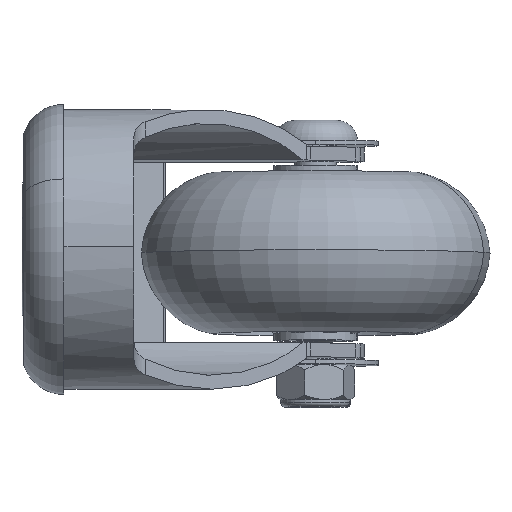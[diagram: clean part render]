
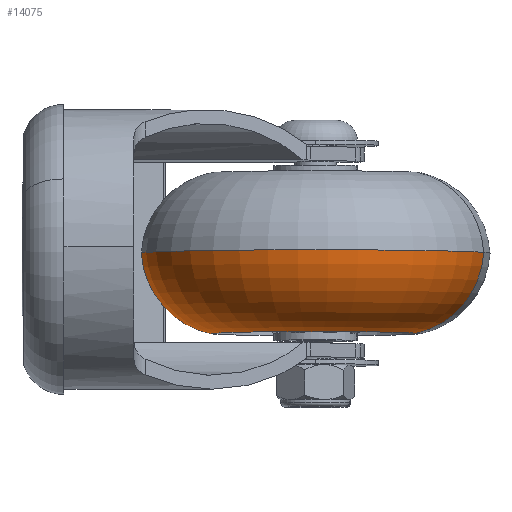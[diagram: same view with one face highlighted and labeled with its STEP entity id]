
A CAD part, left-side view. The second image highlights one B-rep face of the part: STEP entity #14075.
In plain terms, the highlighted toroidal (fillet/blend) face has major radius 12.523 mm and minor radius 12.5 mm.
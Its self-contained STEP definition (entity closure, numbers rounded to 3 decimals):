
#219 = ORIENTED_EDGE ( 'NONE', *, *, #24552, .T. ) ;
#465 = DIRECTION ( 'NONE',  ( -1., 0., 0. ) ) ;
#528 = CIRCLE ( 'NONE', #6627, 15. ) ;
#1528 = DIRECTION ( 'NONE',  ( 0., -1., 0. ) ) ;
#2879 = DIRECTION ( 'NONE',  ( 0., 0., -1. ) ) ;
#3900 = AXIS2_PLACEMENT_3D ( 'NONE', #29834, #465, #24161 ) ;
#3958 = EDGE_CURVE ( 'NONE', #14428, #33915, #528, .T. ) ;
#6627 = AXIS2_PLACEMENT_3D ( 'NONE', #14784, #20276, #8551 ) ;
#6629 = VERTEX_POINT ( 'NONE', #15293 ) ;
#7053 = AXIS2_PLACEMENT_3D ( 'NONE', #21641, #33173, #18813 ) ;
#7097 = ORIENTED_EDGE ( 'NONE', *, *, #3958, .F. ) ;
#7304 = EDGE_CURVE ( 'NONE', #33915, #23083, #12468, .T. ) ;
#7373 = ORIENTED_EDGE ( 'NONE', *, *, #7304, .F. ) ;
#8537 = CARTESIAN_POINT ( 'NONE',  ( 0., -11.5, -15. ) ) ;
#8551 = DIRECTION ( 'NONE',  ( 0., 0., -1. ) ) ;
#10627 = CARTESIAN_POINT ( 'NONE',  ( 0., 0., 0. ) ) ;
#10817 = DIRECTION ( 'NONE',  ( 0., 0., -1. ) ) ;
#12468 = CIRCLE ( 'NONE', #7053, 12.5 ) ;
#14075 = ADVANCED_FACE ( 'NONE', ( #28454 ), #23616, .T. ) ;
#14428 = VERTEX_POINT ( 'NONE', #35521 ) ;
#14784 = CARTESIAN_POINT ( 'NONE',  ( 0., -11.5, 0. ) ) ;
#15293 = CARTESIAN_POINT ( 'NONE',  ( 0., 0., 25. ) ) ;
#18813 = DIRECTION ( 'NONE',  ( 0., 0., -1. ) ) ;
#19153 = AXIS2_PLACEMENT_3D ( 'NONE', #10627, #1528, #10817 ) ;
#20276 = DIRECTION ( 'NONE',  ( 0., -1., 0. ) ) ;
#21641 = CARTESIAN_POINT ( 'NONE',  ( 0., 0.752, -12.523 ) ) ;
#22402 = AXIS2_PLACEMENT_3D ( 'NONE', #28642, #36977, #2879 ) ;
#23083 = VERTEX_POINT ( 'NONE', #37032 ) ;
#23616 = TOROIDAL_SURFACE ( 'NONE', #22402, 12.523, 12.5 ) ;
#24067 = EDGE_LOOP ( 'NONE', ( #7097, #219, #29683, #7373 ) ) ;
#24161 = DIRECTION ( 'NONE',  ( 0., 0., 1. ) ) ;
#24552 = EDGE_CURVE ( 'NONE', #14428, #6629, #36544, .T. ) ;
#28454 = FACE_OUTER_BOUND ( 'NONE', #24067, .T. ) ;
#28642 = CARTESIAN_POINT ( 'NONE',  ( 0., 0.752, 0. ) ) ;
#29683 = ORIENTED_EDGE ( 'NONE', *, *, #33788, .T. ) ;
#29834 = CARTESIAN_POINT ( 'NONE',  ( 0., 0.752, 12.523 ) ) ;
#33173 = DIRECTION ( 'NONE',  ( 1., 0., 0. ) ) ;
#33638 = CIRCLE ( 'NONE', #19153, 25. ) ;
#33788 = EDGE_CURVE ( 'NONE', #6629, #23083, #33638, .T. ) ;
#33915 = VERTEX_POINT ( 'NONE', #8537 ) ;
#35521 = CARTESIAN_POINT ( 'NONE',  ( 0., -11.5, 15. ) ) ;
#36544 = CIRCLE ( 'NONE', #3900, 12.5 ) ;
#36977 = DIRECTION ( 'NONE',  ( 0., 1., 0. ) ) ;
#37032 = CARTESIAN_POINT ( 'NONE',  ( 0., 0., -25. ) ) ;
